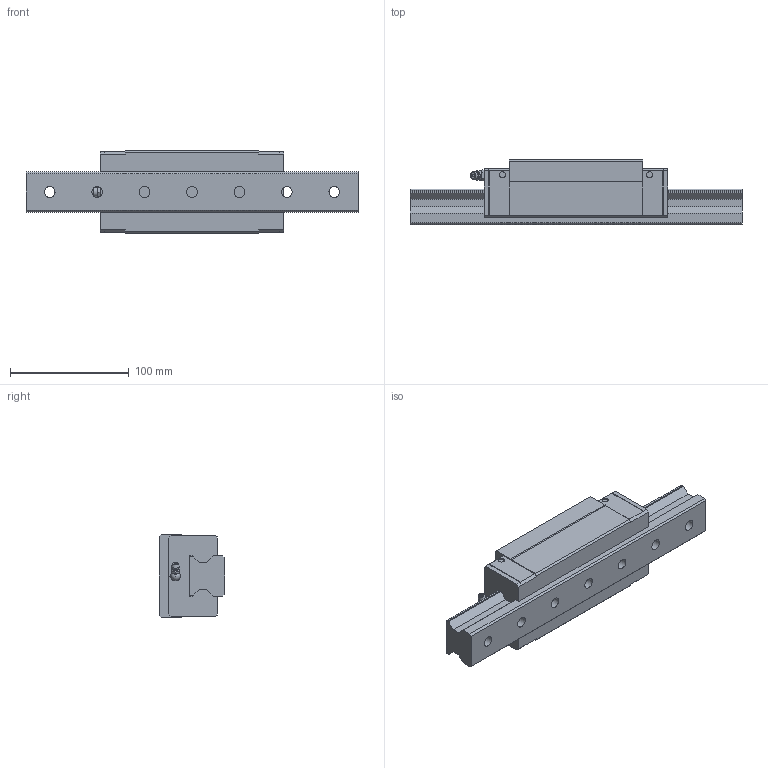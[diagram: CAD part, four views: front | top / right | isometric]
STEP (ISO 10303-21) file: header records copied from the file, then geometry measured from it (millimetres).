
FILE_DESCRIPTION(/* description */ ('STEP AP203'),/* implementation_level */ '2;1');
FILE_NAME(/* name */ 'SRG35LR1SS-280LH_G20_0_B-M6F_62-5_0_0_0_1',/* time_stamp */ '2024-05-23T10:22:14+02:00',/* author */ ('License CC BY-ND 4.0'),/* organization */ ('CADENAS'),/* preprocessor_version */ 'ST-DEVELOPER v19.3',/* originating_system */ 'PARTsolutions',/* authorisation */ ' ');
FILE_SCHEMA (('CONFIG_CONTROL_DESIGN'));
Length unit declared in the file: millimetre
Products named in the file (4): SRG35LR1SS-280LH_G20_0_B-M6F_62-5_0_0_0_1; SRG35LR280203 Track; SRG35LRSSB-M6F1 Slide25-55; SRG-B-M6F_grease_nipple_joint
Assembly tree (3 placements, depth 2):
  SRG35LR1SS-280LH_G20_0_B-M6F_62-5_0_0_0_1
    SRG35LR280203 Track
    SRG35LRSSB-M6F1 Slide25-55
    SRG-B-M6F_grease_nipple_joint
Bounding box: 280 x 55 x 70 mm (x, y, z)
Volume: 618161.1 mm3; surface area: 98425.3 mm2
Topology: 3 solids, 3 shells, 201 faces, 512 edges, 331 vertices
Faces by surface type: plane 137, cylinder 34, cone 25, sphere 3, torus 2
Full cylindrical faces by diameter (mm): 4.917 x2, 5.2 x4, 6 x1, 6.647 x6, 8 x1, 9 x7, 10.2 x2, 14 x7
Entity records: 5811 total; most frequent: CARTESIAN_POINT 1074, DIRECTION 926, ORIENTED_EDGE 888, EDGE_CURVE 444, VERTEX_POINT 325, LINE 324, VECTOR 324, AXIS2_PLACEMENT_3D 301
